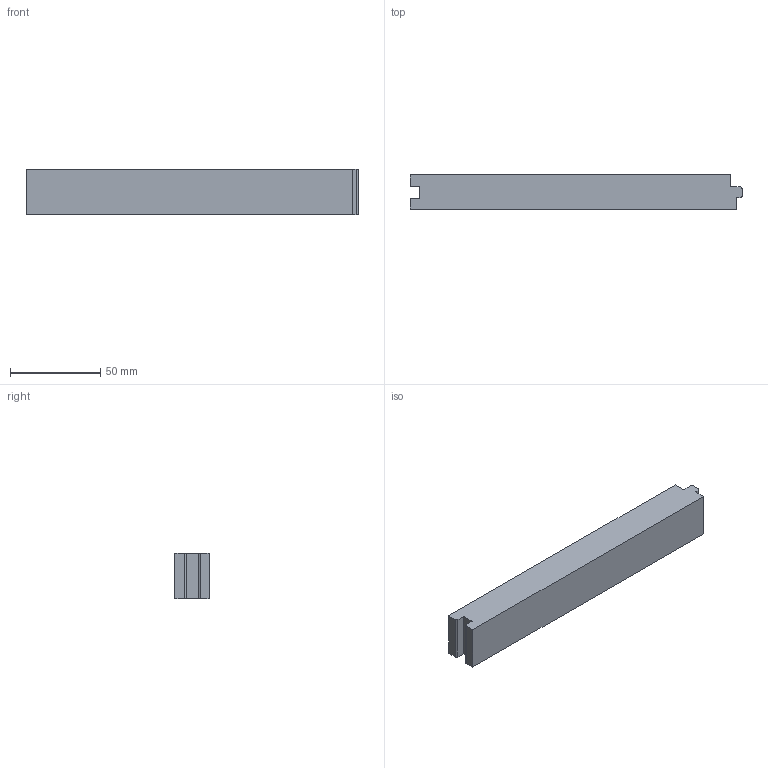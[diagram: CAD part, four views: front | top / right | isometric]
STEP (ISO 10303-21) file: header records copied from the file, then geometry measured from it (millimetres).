
FILE_DESCRIPTION (( 'STEP AP203' ), '1' );
FILE_NAME ('Nick8FJ.STEP', '2023-08-25T14:30:29', ( '' ), ( '' ), 'SwSTEP 2.0', 'SolidWorks 2020', '' );
FILE_SCHEMA (( 'CONFIG_CONTROL_DESIGN' ));
Length unit declared in the file: inch
Products named in the file (1): Nick8FJ
Bounding box: 184.15 x 19.05 x 25.4 mm (x, y, z)
Volume: 86553.4 mm3; surface area: 17374.6 mm2
Topology: 1 solids, 1 shells, 18 faces, 48 edges, 32 vertices
Faces by surface type: plane 14, cylinder 4
Entity records: 639 total; most frequent: CARTESIAN_POINT 99, ORIENTED_EDGE 96, DIRECTION 94, EDGE_CURVE 48, LINE 40, VECTOR 40, VERTEX_POINT 32, AXIS2_PLACEMENT_3D 27
